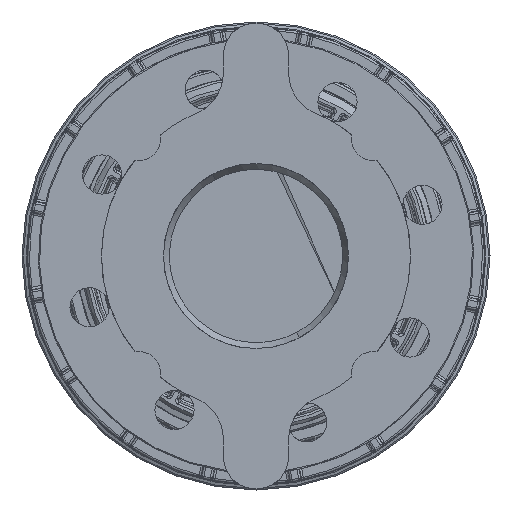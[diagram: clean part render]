
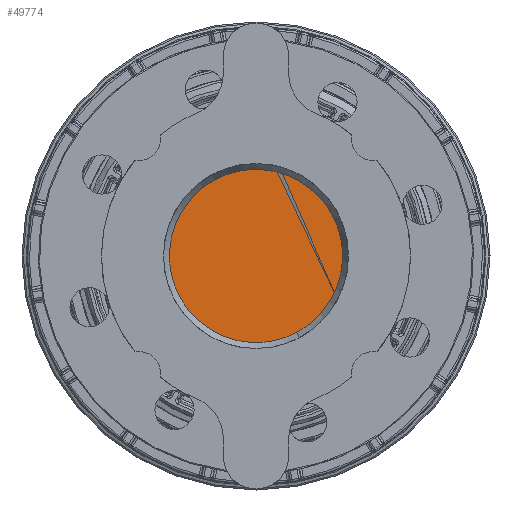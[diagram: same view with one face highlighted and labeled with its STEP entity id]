
A CAD part, front view. The second image highlights one B-rep face of the part: STEP entity #49774.
In plain terms, the highlighted planar face has unit normal (0, -1, 0).
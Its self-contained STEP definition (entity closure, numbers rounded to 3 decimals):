
#1031 = PLANE ( 'NONE',  #43601 ) ;
#2125 = VERTEX_POINT ( 'NONE', #8852 ) ;
#6548 = AXIS2_PLACEMENT_3D ( 'NONE', #67187, #15756, #49119 ) ;
#8852 = CARTESIAN_POINT ( 'NONE',  ( -89.379, 5., -13.322 ) ) ;
#9895 = DIRECTION ( 'NONE',  ( -0.837, 0., -0.547 ) ) ;
#12558 = CARTESIAN_POINT ( 'NONE',  ( 15.268, 5., 55.046 ) ) ;
#14847 = ORIENTED_EDGE ( 'NONE', *, *, #43788, .F. ) ;
#15756 = DIRECTION ( 'NONE',  ( 0., 1., 0. ) ) ;
#24273 = EDGE_CURVE ( 'NONE', #24712, #2125, #42558, .T. ) ;
#24712 = VERTEX_POINT ( 'NONE', #12558 ) ;
#27187 = CARTESIAN_POINT ( 'NONE',  ( -37.055, 5., 20.862 ) ) ;
#33510 = DIRECTION ( 'NONE',  ( -0.837, 0., -0.547 ) ) ;
#40642 = DIRECTION ( 'NONE',  ( 0., 1., 0. ) ) ;
#42558 = CIRCLE ( 'NONE', #6548, 62.5 ) ;
#43601 = AXIS2_PLACEMENT_3D ( 'NONE', #74102, #81043, #33510 ) ;
#43788 = EDGE_CURVE ( 'NONE', #2125, #24712, #62373, .T. ) ;
#49119 = DIRECTION ( 'NONE',  ( -0.837, 0., -0.547 ) ) ;
#49774 = ADVANCED_FACE ( 'NONE', ( #67193 ), #1031, .F. ) ;
#51750 = ORIENTED_EDGE ( 'NONE', *, *, #24273, .F. ) ;
#54008 = EDGE_LOOP ( 'NONE', ( #51750, #14847 ) ) ;
#62373 = CIRCLE ( 'NONE', #63702, 62.5 ) ;
#63702 = AXIS2_PLACEMENT_3D ( 'NONE', #27187, #40642, #9895 ) ;
#67187 = CARTESIAN_POINT ( 'NONE',  ( -37.055, 5., 20.862 ) ) ;
#67193 = FACE_OUTER_BOUND ( 'NONE', #54008, .T. ) ;
#74102 = CARTESIAN_POINT ( 'NONE',  ( -37.055, 5., 20.862 ) ) ;
#81043 = DIRECTION ( 'NONE',  ( 0., 1., 0. ) ) ;
